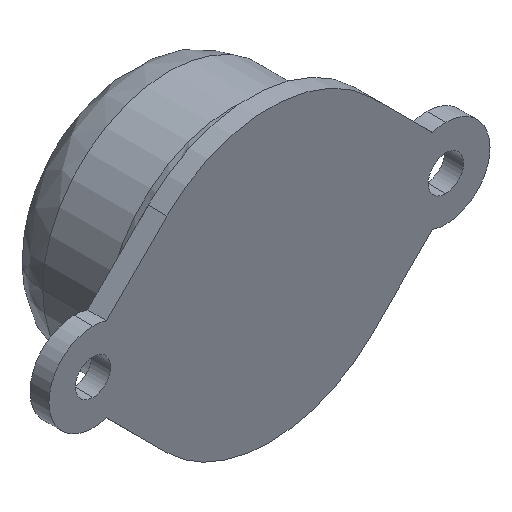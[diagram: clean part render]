
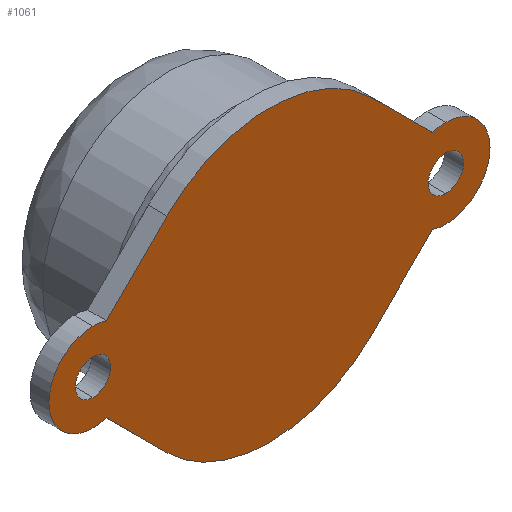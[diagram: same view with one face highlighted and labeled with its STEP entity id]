
A CAD part, isometric view. The second image highlights one B-rep face of the part: STEP entity #1061.
In plain terms, the highlighted planar face has unit normal (0, -1, 0).
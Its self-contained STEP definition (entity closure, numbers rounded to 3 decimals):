
#2 = CARTESIAN_POINT ( 'NONE',  ( 28., 0., 0. ) ) ;
#3 = EDGE_CURVE ( 'NONE', #116, #69, #96, .T. ) ;
#11 = DIRECTION ( 'NONE',  ( 0., 1., 0. ) ) ;
#44 = DIRECTION ( 'NONE',  ( 0., 0., 1. ) ) ;
#46 = AXIS2_PLACEMENT_3D ( 'NONE', #265, #440, #1049 ) ;
#59 = EDGE_CURVE ( 'NONE', #103, #236, #1023, .T. ) ;
#69 = VERTEX_POINT ( 'NONE', #956 ) ;
#88 = ORIENTED_EDGE ( 'NONE', *, *, #230, .F. ) ;
#89 = CIRCLE ( 'NONE', #356, 23. ) ;
#94 = DIRECTION ( 'NONE',  ( 0., 0., -1. ) ) ;
#96 = CIRCLE ( 'NONE', #290, 2.8 ) ;
#101 = FACE_OUTER_BOUND ( 'NONE', #1006, .T. ) ;
#103 = VERTEX_POINT ( 'NONE', #1143 ) ;
#106 = EDGE_CURVE ( 'NONE', #774, #909, #765, .T. ) ;
#112 = CARTESIAN_POINT ( 'NONE',  ( 25.862, 0., -6.665 ) ) ;
#116 = VERTEX_POINT ( 'NONE', #711 ) ;
#119 = CARTESIAN_POINT ( 'NONE',  ( -28., 0., 0. ) ) ;
#121 = ORIENTED_EDGE ( 'NONE', *, *, #1132, .F. ) ;
#124 = AXIS2_PLACEMENT_3D ( 'NONE', #1008, #475, #1085 ) ;
#129 = AXIS2_PLACEMENT_3D ( 'NONE', #119, #744, #207 ) ;
#134 = EDGE_LOOP ( 'NONE', ( #565, #213 ) ) ;
#138 = CARTESIAN_POINT ( 'NONE',  ( 28., 0., 0. ) ) ;
#150 = VERTEX_POINT ( 'NONE', #682 ) ;
#166 = EDGE_CURVE ( 'NONE', #1014, #774, #514, .T. ) ;
#201 = CIRCLE ( 'NONE', #844, 2.8 ) ;
#207 = DIRECTION ( 'NONE',  ( 0., 0., 1. ) ) ;
#213 = ORIENTED_EDGE ( 'NONE', *, *, #783, .T. ) ;
#220 = VECTOR ( 'NONE', #346, 1000. ) ;
#223 = CARTESIAN_POINT ( 'NONE',  ( 16.263, 0., 16.263 ) ) ;
#230 = EDGE_CURVE ( 'NONE', #913, #234, #752, .T. ) ;
#234 = VERTEX_POINT ( 'NONE', #371 ) ;
#236 = VERTEX_POINT ( 'NONE', #353 ) ;
#245 = CARTESIAN_POINT ( 'NONE',  ( 28., 0., 0. ) ) ;
#261 = VERTEX_POINT ( 'NONE', #309 ) ;
#263 = CARTESIAN_POINT ( 'NONE',  ( 28., 0., -7. ) ) ;
#265 = CARTESIAN_POINT ( 'NONE',  ( 0., 0., 0. ) ) ;
#274 = VERTEX_POINT ( 'NONE', #263 ) ;
#278 = CIRCLE ( 'NONE', #534, 7. ) ;
#279 = DIRECTION ( 'NONE',  ( 0., 1., 0. ) ) ;
#289 = ORIENTED_EDGE ( 'NONE', *, *, #825, .F. ) ;
#290 = AXIS2_PLACEMENT_3D ( 'NONE', #1129, #419, #331 ) ;
#293 = LINE ( 'NONE', #223, #963 ) ;
#309 = CARTESIAN_POINT ( 'NONE',  ( -28., 0., -7. ) ) ;
#312 = CIRCLE ( 'NONE', #124, 7. ) ;
#331 = DIRECTION ( 'NONE',  ( 0., 0., 1. ) ) ;
#335 = DIRECTION ( 'NONE',  ( 0., 0., 1. ) ) ;
#337 = DIRECTION ( 'NONE',  ( 0., 0., -1. ) ) ;
#342 = DIRECTION ( 'NONE',  ( 0., 1., 0. ) ) ;
#346 = DIRECTION ( 'NONE',  ( -0.707, 0., -0.707 ) ) ;
#347 = CARTESIAN_POINT ( 'NONE',  ( 0., 0., 0. ) ) ;
#350 = DIRECTION ( 'NONE',  ( 0., 1., 0. ) ) ;
#353 = CARTESIAN_POINT ( 'NONE',  ( 28., 0., 2.8 ) ) ;
#356 = AXIS2_PLACEMENT_3D ( 'NONE', #554, #11, #644 ) ;
#359 = ORIENTED_EDGE ( 'NONE', *, *, #1124, .F. ) ;
#367 = EDGE_CURVE ( 'NONE', #1101, #150, #856, .T. ) ;
#371 = CARTESIAN_POINT ( 'NONE',  ( 16.263, 0., 16.263 ) ) ;
#385 = CARTESIAN_POINT ( 'NONE',  ( -16.263, 0., -16.263 ) ) ;
#391 = CIRCLE ( 'NONE', #492, 7. ) ;
#400 = CARTESIAN_POINT ( 'NONE',  ( 28., 0., 7. ) ) ;
#419 = DIRECTION ( 'NONE',  ( 0., 1., 0. ) ) ;
#426 = CARTESIAN_POINT ( 'NONE',  ( -28., 0., 0. ) ) ;
#430 = VECTOR ( 'NONE', #885, 1000. ) ;
#440 = DIRECTION ( 'NONE',  ( 0., 1., 0. ) ) ;
#446 = EDGE_CURVE ( 'NONE', #722, #537, #572, .T. ) ;
#447 = ORIENTED_EDGE ( 'NONE', *, *, #446, .F. ) ;
#448 = CARTESIAN_POINT ( 'NONE',  ( -25.862, 0., 6.665 ) ) ;
#451 = ORIENTED_EDGE ( 'NONE', *, *, #166, .F. ) ;
#475 = DIRECTION ( 'NONE',  ( 0., 1., 0. ) ) ;
#477 = CIRCLE ( 'NONE', #1025, 7. ) ;
#478 = ORIENTED_EDGE ( 'NONE', *, *, #685, .F. ) ;
#492 = AXIS2_PLACEMENT_3D ( 'NONE', #541, #1145, #633 ) ;
#513 = DIRECTION ( 'NONE',  ( 0., 0., -1. ) ) ;
#514 = CIRCLE ( 'NONE', #704, 23. ) ;
#528 = PLANE ( 'NONE',  #46 ) ;
#534 = AXIS2_PLACEMENT_3D ( 'NONE', #2, #636, #94 ) ;
#535 = VERTEX_POINT ( 'NONE', #876 ) ;
#537 = VERTEX_POINT ( 'NONE', #1052 ) ;
#541 = CARTESIAN_POINT ( 'NONE',  ( 28., 0., 0. ) ) ;
#554 = CARTESIAN_POINT ( 'NONE',  ( 0., 0., 0. ) ) ;
#556 = FACE_BOUND ( 'NONE', #134, .T. ) ;
#565 = ORIENTED_EDGE ( 'NONE', *, *, #3, .T. ) ;
#572 = LINE ( 'NONE', #870, #220 ) ;
#583 = AXIS2_PLACEMENT_3D ( 'NONE', #138, #853, #44 ) ;
#593 = FACE_BOUND ( 'NONE', #871, .T. ) ;
#594 = CARTESIAN_POINT ( 'NONE',  ( -16.263, 0., 16.263 ) ) ;
#603 = ORIENTED_EDGE ( 'NONE', *, *, #1107, .F. ) ;
#625 = DIRECTION ( 'NONE',  ( 0., 0., -1. ) ) ;
#629 = DIRECTION ( 'NONE',  ( 0., 1., 0. ) ) ;
#631 = EDGE_CURVE ( 'NONE', #274, #722, #391, .T. ) ;
#633 = DIRECTION ( 'NONE',  ( 0., 0., -1. ) ) ;
#635 = CARTESIAN_POINT ( 'NONE',  ( 0., 0., 0. ) ) ;
#636 = DIRECTION ( 'NONE',  ( 0., 1., 0. ) ) ;
#644 = DIRECTION ( 'NONE',  ( 0., 0., -1. ) ) ;
#682 = CARTESIAN_POINT ( 'NONE',  ( -25.862, 0., 6.665 ) ) ;
#685 = EDGE_CURVE ( 'NONE', #537, #1014, #89, .T. ) ;
#704 = AXIS2_PLACEMENT_3D ( 'NONE', #635, #629, #625 ) ;
#711 = CARTESIAN_POINT ( 'NONE',  ( -28., 0., 2.8 ) ) ;
#722 = VERTEX_POINT ( 'NONE', #112 ) ;
#737 = ORIENTED_EDGE ( 'NONE', *, *, #1057, .F. ) ;
#744 = DIRECTION ( 'NONE',  ( 0., 1., 0. ) ) ;
#752 = CIRCLE ( 'NONE', #821, 23. ) ;
#759 = DIRECTION ( 'NONE',  ( 0.707, 0., -0.707 ) ) ;
#765 = LINE ( 'NONE', #1136, #430 ) ;
#774 = VERTEX_POINT ( 'NONE', #385 ) ;
#783 = EDGE_CURVE ( 'NONE', #69, #116, #1114, .T. ) ;
#791 = EDGE_CURVE ( 'NONE', #909, #261, #312, .T. ) ;
#807 = CARTESIAN_POINT ( 'NONE',  ( -28., 0., 0. ) ) ;
#821 = AXIS2_PLACEMENT_3D ( 'NONE', #347, #342, #337 ) ;
#825 = EDGE_CURVE ( 'NONE', #234, #535, #293, .T. ) ;
#829 = AXIS2_PLACEMENT_3D ( 'NONE', #426, #1039, #513 ) ;
#837 = CIRCLE ( 'NONE', #1100, 7. ) ;
#844 = AXIS2_PLACEMENT_3D ( 'NONE', #245, #861, #335 ) ;
#845 = VERTEX_POINT ( 'NONE', #400 ) ;
#853 = DIRECTION ( 'NONE',  ( 0., 1., 0. ) ) ;
#856 = CIRCLE ( 'NONE', #829, 7. ) ;
#861 = DIRECTION ( 'NONE',  ( 0., 1., 0. ) ) ;
#870 = CARTESIAN_POINT ( 'NONE',  ( 25.862, 0., -6.665 ) ) ;
#871 = EDGE_LOOP ( 'NONE', ( #905, #1005 ) ) ;
#876 = CARTESIAN_POINT ( 'NONE',  ( 25.862, 0., 6.665 ) ) ;
#881 = CARTESIAN_POINT ( 'NONE',  ( 28., 0., 0. ) ) ;
#885 = DIRECTION ( 'NONE',  ( -0.707, 0., 0.707 ) ) ;
#899 = DIRECTION ( 'NONE',  ( 0., 0., -1. ) ) ;
#905 = ORIENTED_EDGE ( 'NONE', *, *, #920, .T. ) ;
#909 = VERTEX_POINT ( 'NONE', #1026 ) ;
#913 = VERTEX_POINT ( 'NONE', #594 ) ;
#920 = EDGE_CURVE ( 'NONE', #236, #103, #201, .T. ) ;
#956 = CARTESIAN_POINT ( 'NONE',  ( -28., 0., -2.8 ) ) ;
#960 = CARTESIAN_POINT ( 'NONE',  ( 0., 0., -23. ) ) ;
#963 = VECTOR ( 'NONE', #759, 1000. ) ;
#968 = DIRECTION ( 'NONE',  ( 0., 0., -1. ) ) ;
#985 = DIRECTION ( 'NONE',  ( 0.707, 0., 0.707 ) ) ;
#986 = ORIENTED_EDGE ( 'NONE', *, *, #791, .F. ) ;
#1003 = ORIENTED_EDGE ( 'NONE', *, *, #367, .F. ) ;
#1005 = ORIENTED_EDGE ( 'NONE', *, *, #59, .T. ) ;
#1006 = EDGE_LOOP ( 'NONE', ( #447, #1146, #737, #603, #289, #88, #121, #1003, #359, #986, #1081, #451, #478 ) ) ;
#1008 = CARTESIAN_POINT ( 'NONE',  ( -28., 0., 0. ) ) ;
#1014 = VERTEX_POINT ( 'NONE', #960 ) ;
#1023 = CIRCLE ( 'NONE', #583, 2.8 ) ;
#1025 = AXIS2_PLACEMENT_3D ( 'NONE', #881, #350, #968 ) ;
#1026 = CARTESIAN_POINT ( 'NONE',  ( -25.862, 0., -6.665 ) ) ;
#1039 = DIRECTION ( 'NONE',  ( 0., 1., 0. ) ) ;
#1049 = DIRECTION ( 'NONE',  ( 0., 0., 1. ) ) ;
#1052 = CARTESIAN_POINT ( 'NONE',  ( 16.263, 0., -16.263 ) ) ;
#1057 = EDGE_CURVE ( 'NONE', #845, #274, #477, .T. ) ;
#1059 = VECTOR ( 'NONE', #985, 1000. ) ;
#1060 = CARTESIAN_POINT ( 'NONE',  ( -28., 0., 7. ) ) ;
#1061 = ADVANCED_FACE ( 'NONE', ( #593, #556, #101 ), #528, .F. ) ;
#1081 = ORIENTED_EDGE ( 'NONE', *, *, #106, .F. ) ;
#1085 = DIRECTION ( 'NONE',  ( 0., 0., -1. ) ) ;
#1100 = AXIS2_PLACEMENT_3D ( 'NONE', #807, #279, #899 ) ;
#1101 = VERTEX_POINT ( 'NONE', #1060 ) ;
#1107 = EDGE_CURVE ( 'NONE', #535, #845, #278, .T. ) ;
#1114 = CIRCLE ( 'NONE', #129, 2.8 ) ;
#1124 = EDGE_CURVE ( 'NONE', #261, #1101, #837, .T. ) ;
#1129 = CARTESIAN_POINT ( 'NONE',  ( -28., 0., 0. ) ) ;
#1132 = EDGE_CURVE ( 'NONE', #150, #913, #1139, .T. ) ;
#1136 = CARTESIAN_POINT ( 'NONE',  ( -16.263, 0., -16.263 ) ) ;
#1139 = LINE ( 'NONE', #448, #1059 ) ;
#1143 = CARTESIAN_POINT ( 'NONE',  ( 28., 0., -2.8 ) ) ;
#1145 = DIRECTION ( 'NONE',  ( 0., 1., 0. ) ) ;
#1146 = ORIENTED_EDGE ( 'NONE', *, *, #631, .F. ) ;
